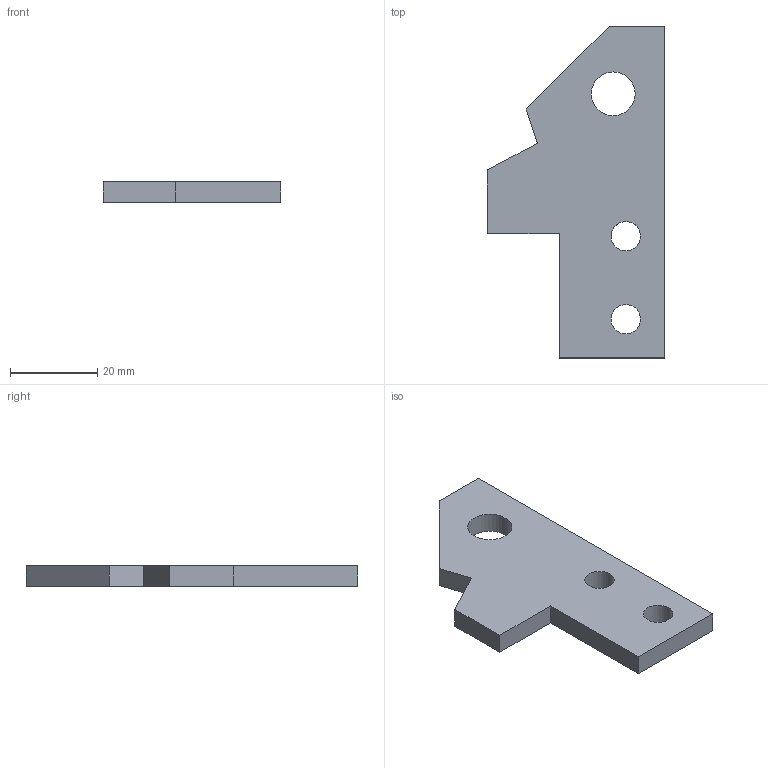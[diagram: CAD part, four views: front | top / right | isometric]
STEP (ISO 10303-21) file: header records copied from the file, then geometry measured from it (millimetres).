
FILE_DESCRIPTION(/* description */ (''),/* implementation_level */ '2;1');
FILE_NAME(/* name */ 'F:\Google Drive\Research\3d Printer Research\Feedstock Grinder\Ginder Parts\negative blade 1.step',/* time_stamp */ '2016-08-18T22:20:22-07:00',/* author */ ('Brenton'),/* organization */ (''),/* preprocessor_version */ 'ST-DEVELOPER v15.6',/* originating_system */ 'Autodesk Inventor 2015',/* authorisation */ '');
FILE_SCHEMA (('AUTOMOTIVE_DESIGN { 1 0 10303 214 3 1 1 }'));
Length unit declared in the file: inch
Products named in the file (1): negative blad 1
Bounding box: 40.64 x 76.2 x 4.76 mm (x, y, z)
Volume: 9561.2 mm3; surface area: 5420.4 mm2
Topology: 1 solids, 1 shells, 14 faces, 36 edges, 24 vertices
Faces by surface type: plane 11, cylinder 3
Full cylindrical faces by diameter (mm): 6.756 x2, 10.084 x1
Entity records: 449 total; most frequent: CARTESIAN_POINT 72, DIRECTION 69, ORIENTED_EDGE 66, EDGE_CURVE 33, LINE 27, VECTOR 27, VERTEX_POINT 24, EDGE_LOOP 23
